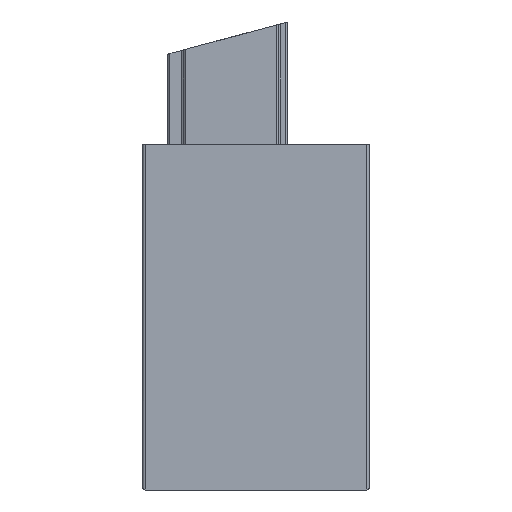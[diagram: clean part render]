
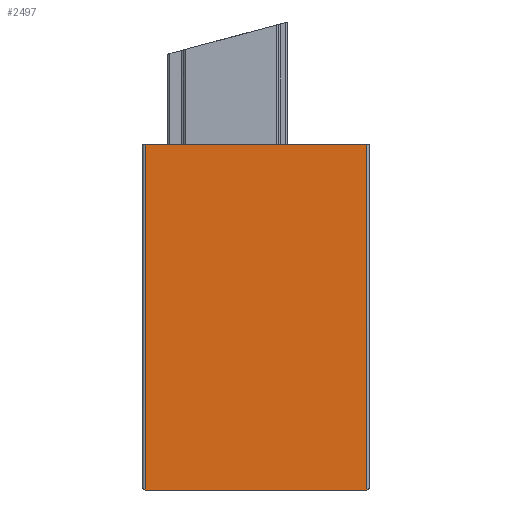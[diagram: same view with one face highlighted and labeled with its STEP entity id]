
A CAD part, left-side view. The second image highlights one B-rep face of the part: STEP entity #2497.
In plain terms, the highlighted planar face has unit normal (-1, 0, 0) as drawn and (0, 0, 1) by its records, which use the part's own axes.
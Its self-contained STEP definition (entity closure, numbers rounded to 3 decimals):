
#1562=DIRECTION('',(0.,-1.,0.));
#1563=VECTOR('',#1562,19.6);
#1564=CARTESIAN_POINT('',(50.,19.8,6.25));
#1565=LINE('',#1564,#1563);
#1725=DIRECTION('',(-1.,0.,0.));
#1726=VECTOR('',#1725,30.5);
#1727=CARTESIAN_POINT('',(50.,19.8,6.25));
#1728=LINE('',#1727,#1726);
#1729=DIRECTION('',(-1.,0.,0.));
#1730=VECTOR('',#1729,30.5);
#1731=CARTESIAN_POINT('',(50.,0.2,6.25));
#1732=LINE('',#1731,#1730);
#1733=DIRECTION('',(0.,-1.,0.));
#1734=VECTOR('',#1733,19.6);
#1735=CARTESIAN_POINT('',(19.5,19.8,6.25));
#1736=LINE('',#1735,#1734);
#2179=CARTESIAN_POINT('',(50.,0.2,6.25));
#2181=VERTEX_POINT('',#2179);
#2192=CARTESIAN_POINT('',(50.,19.8,6.25));
#2194=VERTEX_POINT('',#2192);
#2269=CARTESIAN_POINT('',(19.5,19.8,6.25));
#2270=VERTEX_POINT('',#2269);
#2279=CARTESIAN_POINT('',(19.5,0.2,6.25));
#2280=VERTEX_POINT('',#2279);
#2485=CARTESIAN_POINT('',(-50.,20.,6.25));
#2486=DIRECTION('',(0.,0.,1.));
#2487=DIRECTION('',(0.,-1.,0.));
#2488=AXIS2_PLACEMENT_3D('',#2485,#2486,#2487);
#2489=PLANE('',#2488);
#2491=ORIENTED_EDGE('',*,*,#2490,.F.);
#2492=ORIENTED_EDGE('',*,*,#2294,.T.);
#2493=ORIENTED_EDGE('',*,*,#2386,.T.);
#2494=ORIENTED_EDGE('',*,*,#2399,.F.);
#2495=EDGE_LOOP('',(#2491,#2492,#2493,#2494));
#2496=FACE_OUTER_BOUND('',#2495,.F.);
#2497=ADVANCED_FACE('',(#2496),#2489,.T.);
#2294=EDGE_CURVE('',#2194,#2181,#1565,.T.);
#2386=EDGE_CURVE('',#2181,#2280,#1732,.T.);
#2399=EDGE_CURVE('',#2270,#2280,#1736,.T.);
#2490=EDGE_CURVE('',#2194,#2270,#1728,.T.);
